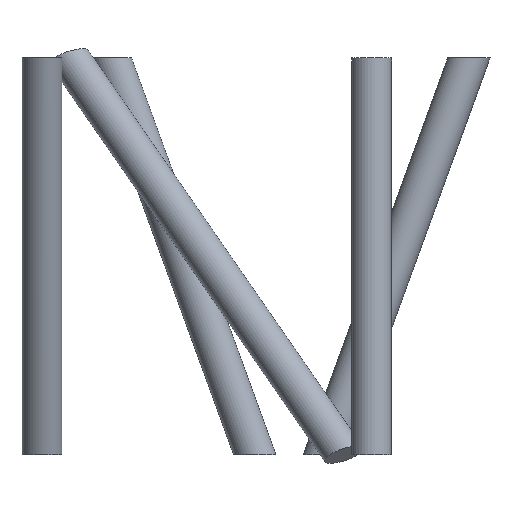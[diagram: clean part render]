
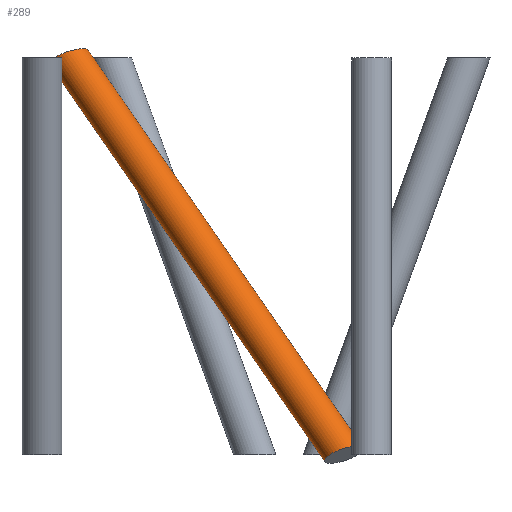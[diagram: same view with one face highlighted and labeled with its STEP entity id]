
A CAD part, front view. The second image highlights one B-rep face of the part: STEP entity #289.
In plain terms, the highlighted cylindrical face has radius 12.5 mm (diameter 25 mm), a full revolution.
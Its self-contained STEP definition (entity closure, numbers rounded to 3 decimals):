
#40=FACE_BOUND('',#90,.T.);
#49=CYLINDRICAL_SURFACE('',#340,12.5);
#62=FACE_OUTER_BOUND('',#89,.T.);
#89=EDGE_LOOP('',(#189,#190));
#90=EDGE_LOOP('',(#191,#192));
#118=ELLIPSE('',#336,13.302,12.5);
#120=ELLIPSE('',#339,13.302,12.5);
#121=ELLIPSE('',#341,33.087,12.5);
#122=ELLIPSE('',#342,33.087,12.5);
#131=VERTEX_POINT('',#489);
#132=VERTEX_POINT('',#490);
#133=VERTEX_POINT('',#494);
#134=VERTEX_POINT('',#495);
#154=EDGE_CURVE('',#132,#131,#118,.T.);
#156=EDGE_CURVE('',#134,#133,#120,.T.);
#157=EDGE_CURVE('',#132,#131,#121,.T.);
#158=EDGE_CURVE('',#134,#133,#122,.T.);
#189=ORIENTED_EDGE('',*,*,#157,.F.);
#190=ORIENTED_EDGE('',*,*,#154,.T.);
#191=ORIENTED_EDGE('',*,*,#158,.F.);
#192=ORIENTED_EDGE('',*,*,#156,.T.);
#289=ADVANCED_FACE('',(#62,#40),#49,.T.);
#336=AXIS2_PLACEMENT_3D('',#492,#397,#398);
#339=AXIS2_PLACEMENT_3D('',#497,#403,#404);
#340=AXIS2_PLACEMENT_3D('',#498,#405,#406);
#341=AXIS2_PLACEMENT_3D('',#499,#407,#408);
#342=AXIS2_PLACEMENT_3D('',#500,#409,#410);
#397=DIRECTION('center_axis',(-0.292,0.292,0.911));
#398=DIRECTION('ref_axis',(-0.644,0.644,-0.413));
#403=DIRECTION('center_axis',(0.292,-0.292,-0.911));
#404=DIRECTION('ref_axis',(-0.644,0.644,-0.413));
#405=DIRECTION('center_axis',(-0.495,0.495,0.715));
#406=DIRECTION('ref_axis',(-0.505,0.505,-0.7));
#407=DIRECTION('center_axis',(0.655,-0.655,0.378));
#408=DIRECTION('ref_axis',(0.267,-0.267,-0.926));
#409=DIRECTION('center_axis',(-0.655,0.655,-0.378));
#410=DIRECTION('ref_axis',(0.267,-0.267,-0.926));
#489=CARTESIAN_POINT('',(-10.574,204.355,30.463));
#490=CARTESIAN_POINT('',(-8.705,206.224,30.463));
#492=CARTESIAN_POINT('Origin',(-18.158,213.808,25.));
#494=CARTESIAN_POINT('',(-200.976,393.06,268.995));
#495=CARTESIAN_POINT('',(-197.41,396.626,268.995));
#497=CARTESIAN_POINT('Origin',(-190.803,386.453,274.376));
#498=CARTESIAN_POINT('Origin',(-104.48,300.13,149.688));
#499=CARTESIAN_POINT('Origin',(-0.85,196.5,0.));
#500=CARTESIAN_POINT('Origin',(-207.85,403.5,299.));
